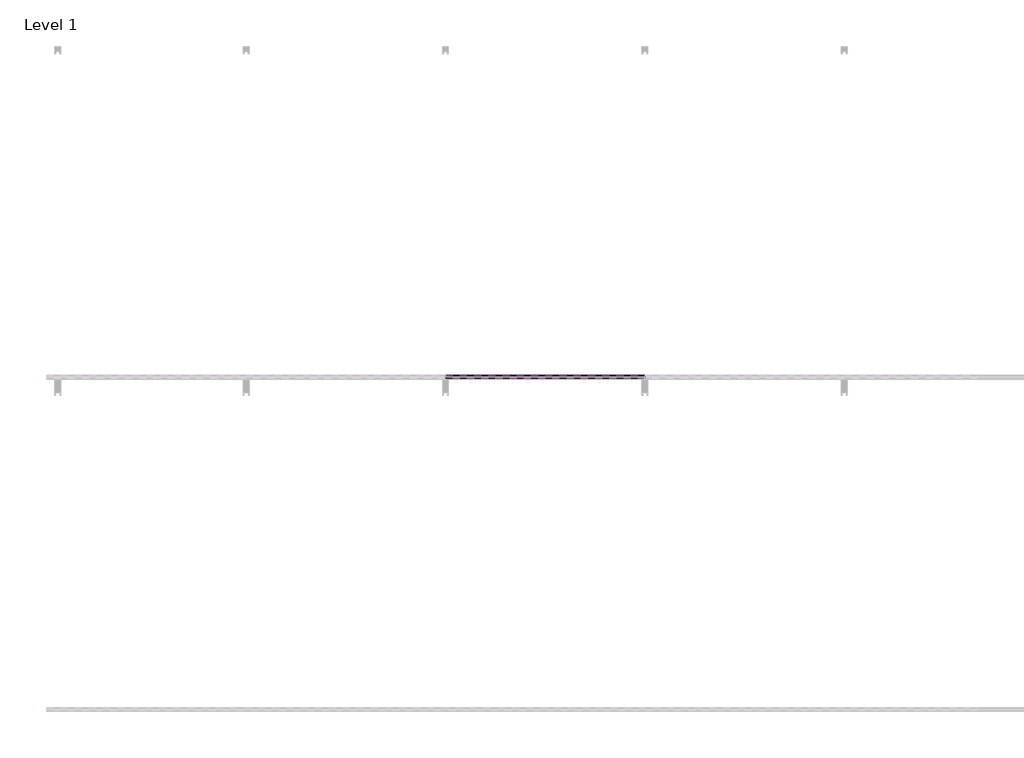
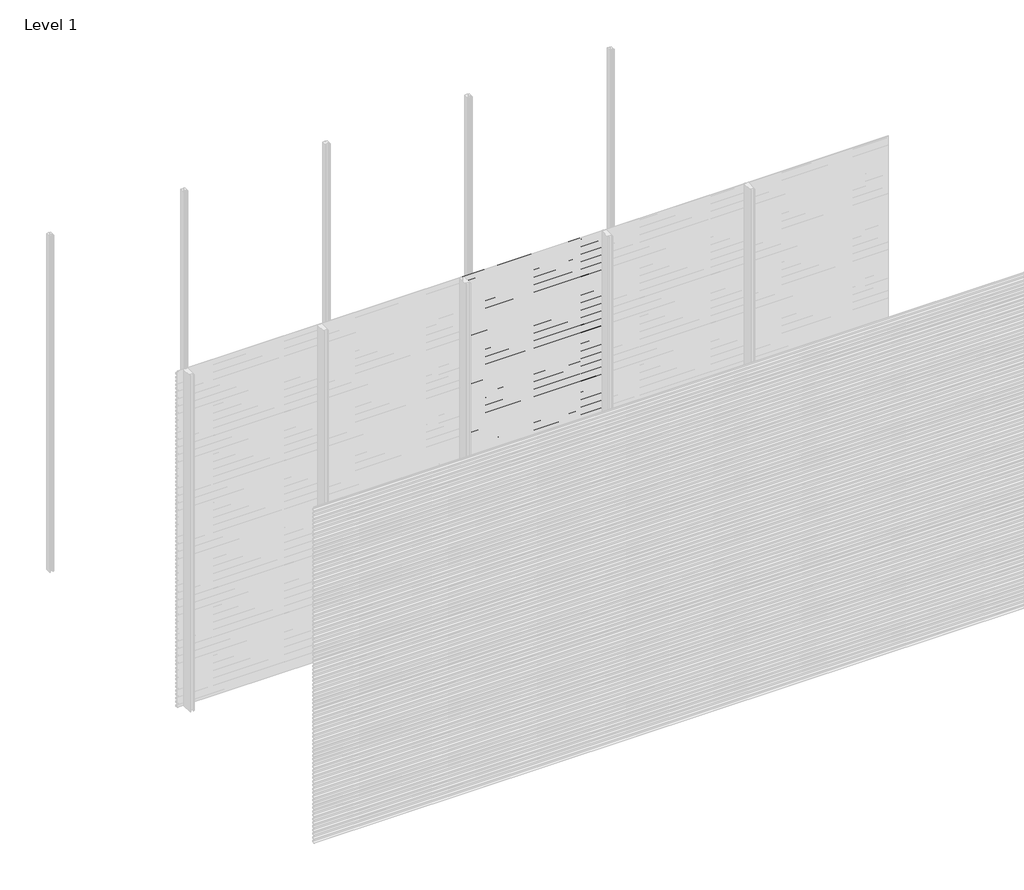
# One storey, part 52 of 77: 72 proxies.
"""IFC4 building model written with IfcOpenShell, lengths in millimetres."""

import ifcopenshell
import ifcopenshell.guid

model = None  # the IFC model being written
_history = None  # IfcOwnerHistory: only IFC2X3 demands one
_inside = {}  # id of a spatial element -> (the spatial element, [elements in it])
_under = {}  # id of a project, library or spatial element -> (it, [spatial elements below it])
_declared = {}  # id of a project -> (the project, [libraries it declares])
_typed = {}  # id of a type object -> (the type object, [elements of that type])
_made_of = {}  # id of a material, layer set ... -> (it, [elements and type objects made of it])


def new_model(schema):
    """Start an empty IFC model of exactly this schema.

    Asked for "IFC4X3", IfcOpenShell would pick the latest addendum, in which some entities
    have other attributes; the version numbers below select the first issue.
    IFC2X3 requires an IfcOwnerHistory on every rooted entity: one is made here for all.
    """
    global model, _history
    if schema == "IFC4X3":
        model = ifcopenshell.file(schema_version=(4, 3, 0, 0))
    else:
        model = ifcopenshell.file(schema=schema)
    _inside.clear()
    _under.clear()
    _declared.clear()
    _typed.clear()
    _made_of.clear()
    _history = None
    if model.schema == "IFC2X3":
        org = make("IfcOrganization", Name="unknown")
        user = make(
            "IfcPersonAndOrganization",
            ThePerson=make("IfcPerson", FamilyName="unknown"),
            TheOrganization=org,
        )
        app = make(
            "IfcApplication",
            ApplicationDeveloper=org,
            Version="unknown",
            ApplicationFullName="unknown",
            ApplicationIdentifier="unknown",
        )
        _history = make(
            "IfcOwnerHistory",
            OwningUser=user,
            OwningApplication=app,
            ChangeAction="ADDED",
            CreationDate=0,
        )
    return model


def make(cls, **values):
    """One entity of the class cls with the attributes given. An attribute that is None is left unset."""
    return model.create_entity(
        cls, **{name: value for name, value in values.items() if value is not None}
    )


def rooted(cls, **values):
    """An entity with a GlobalId (a new one), such as an element, a storey or a relation."""
    return make(cls, GlobalId=ifcopenshell.guid.new(), OwnerHistory=_history, **values)


def si_unit(unit_type, name, prefix=None):
    """IfcSIUnit, for example si_unit("LENGTHUNIT", "METRE", prefix="MILLI")."""
    return make("IfcSIUnit", UnitType=unit_type, Prefix=prefix, Name=name)


def assignment(units):
    """IfcUnitAssignment: the units of a project."""
    return None if units is None else make("IfcUnitAssignment", Units=units)


def point(xyz):
    """IfcCartesianPoint."""
    return None if xyz is None else make("IfcCartesianPoint", Coordinates=xyz)


def direction(xyz):
    """IfcDirection."""
    return None if xyz is None else make("IfcDirection", DirectionRatios=xyz)


def frame(location, z_axis=None, x_axis=None):
    """IfcAxis2Placement3D, a coordinate frame: its origin and axes. An axis left out is left unset."""
    return make(
        "IfcAxis2Placement3D",
        Location=point(location),
        Axis=direction(z_axis),
        RefDirection=direction(x_axis),
    )


def origin():
    """The frame at (0, 0, 0) with its axes left unset."""
    return frame((0.0, 0.0, 0.0))


def place(relative_to, where):
    """IfcLocalPlacement: puts the frame where relative to a parent placement (None: the world)."""
    return make(
        "IfcLocalPlacement", PlacementRelTo=relative_to, RelativePlacement=where
    )


def context(
    kind, dimensions, precision=None, world=None, true_north=None, identifier=None
):
    """IfcGeometricRepresentationContext, for example the 3D "Model" context."""
    return make(
        "IfcGeometricRepresentationContext",
        ContextIdentifier=identifier,
        ContextType=kind,
        CoordinateSpaceDimension=dimensions,
        Precision=precision,
        WorldCoordinateSystem=world,
        TrueNorth=true_north,
    )


def project(units=None, contexts=None):
    """IfcProject with its units and contexts."""
    return rooted(
        "IfcProject",
        Name="project",
        RepresentationContexts=contexts,
        UnitsInContext=assignment(units),
    )


def spatial(cls, under=None, at=None, **own):
    """A site, building, storey or space (cls), placed at a placement, below another one or the project."""
    s = rooted(cls, ObjectPlacement=at, **own)
    if under is not None:
        _under.setdefault(under.id(), (under, []))[1].append(s)
    return s


def polyline(points):
    """IfcPolyline through the points."""
    return make("IfcPolyline", Points=[point(p) for p in points])


def outline(outer, holes=None, kind="AREA"):
    """IfcArbitraryClosedProfileDef: a profile drawn as a closed curve; with holes, ...WithVoids."""
    if holes is None:
        return make("IfcArbitraryClosedProfileDef", ProfileType=kind, OuterCurve=outer)
    return make(
        "IfcArbitraryProfileDefWithVoids",
        ProfileType=kind,
        OuterCurve=outer,
        InnerCurves=holes,
    )


def extrude(swept, where, along, depth):
    """IfcExtrudedAreaSolid: the profile swept, set in the frame where, extruded along a direction by depth."""
    return make(
        "IfcExtrudedAreaSolid",
        SweptArea=swept,
        Position=where,
        ExtrudedDirection=direction(along),
        Depth=depth,
    )


def shape(context_of_items, identifier, shape_type, items):
    """IfcShapeRepresentation: the items that make up one representation, for example the "Body"."""
    return make(
        "IfcShapeRepresentation",
        ContextOfItems=context_of_items,
        RepresentationIdentifier=identifier,
        RepresentationType=shape_type,
        Items=items,
    )


def made_of(thing, what):
    """Note that an element or type object is made of a material, layer set ...; save() writes the relation."""
    if what is not None:
        _made_of.setdefault(what.id(), (what, []))[1].append(thing)
    return thing


def element(
    cls,
    number,
    at=None,
    inside=None,
    cuts=None,
    type_object=None,
    material=None,
    context=None,
    identifier="Body",
    shape_type=None,
    held_by="IfcProductDefinitionShape",
    body=None,
    shapes=None,
    **own,
):
    """One element of the class cls, such as IfcWall. Its Tag is "e" and its number.

    at: its placement. inside: the storey or other place that contains it. cuts: it is an
    opening in that element (IfcRelVoidsElement). A single representation is given by context,
    identifier, shape_type and body (its items); several are given by shapes. held_by: the class
    of the entity that holds the representations. save() writes the other relations.
    """
    e = rooted(cls, Tag="e%d" % number, ObjectPlacement=at, **own)
    if body is not None:
        shapes = [shape(context, identifier, shape_type, body)]
    if shapes is not None:
        e.Representation = make(held_by, Representations=shapes)
    if inside is not None:
        _inside.setdefault(inside.id(), (inside, []))[1].append(e)
    if cuts is not None:
        rooted(
            "IfcRelVoidsElement", RelatingBuildingElement=cuts, RelatedOpeningElement=e
        )
    if type_object is not None:
        _typed.setdefault(type_object.id(), (type_object, []))[1].append(e)
    return made_of(e, material)


def aggregate(whole, parts):
    """IfcRelAggregates: a whole, such as a stair, and the parts it consists of."""
    return rooted("IfcRelAggregates", RelatingObject=whole, RelatedObjects=parts)


def save(model, path):
    """Write the relations noted so far, then the file.

    IfcRelAggregates (storeys below a building ...), IfcRelContainedInSpatialStructure (elements
    in a storey), IfcRelDefinesByType, IfcRelAssociatesMaterial and IfcRelDeclares: one each for
    every whole, place, type object, material and project.
    """
    for whole, parts in _under.values():
        aggregate(whole, parts)
    for where, things in _inside.values():
        rooted(
            "IfcRelContainedInSpatialStructure",
            RelatedElements=things,
            RelatingStructure=where,
        )
    for kind, things in _typed.values():
        rooted("IfcRelDefinesByType", RelatedObjects=things, RelatingType=kind)
    for what, things in _made_of.values():
        rooted("IfcRelAssociatesMaterial", RelatedObjects=things, RelatingMaterial=what)
    for by, libraries in _declared.values():
        rooted("IfcRelDeclares", RelatingContext=by, RelatedDefinitions=libraries)
    model.write(path)


model = new_model("IFC4")

# Units and contexts
model_context = context("Model", 3, world=origin())
ifc_project = project(units=[si_unit("LENGTHUNIT", "METRE", prefix="MILLI")], contexts=[model_context])

# Site, building, storey
site = spatial("IfcSite", under=ifc_project)
building = spatial("IfcBuilding", under=site)
storey = spatial("IfcBuildingStorey", under=building, Name="Level 1", Elevation=0.0)

# Proxies
placement = place(None, origin())
element("IfcBuildingElementProxy", 1, Name="Wall Sweeps", at=placement, inside=storey, context=model_context, shape_type="SweptSolid", body=[
    extrude(outline(polyline([(-17978.6, 408.4359887), (-17998.0, 419.6366691), (-17998.0, 432.9), (-17997.0, 432.9), (-17997.0, 420.2191057), (-17977.6, 409.0185105), (-17977.6, 395.4185105), (-17978.6, 396.9953129), (-17978.6, 402.8032062), (-17995.9773817, 394.7), (-17996.4, 395.6063078), (-17978.6, 403.9065841), (-17978.6, 408.4359887)])), frame((1200.0, 0.0, 0.0), z_axis=(1.0, 0.0, 0.0), x_axis=(0.0, 1.0, 0.0)), (0.0, 0.0, 1.0), 1200.0),
])
element("IfcBuildingElementProxy", 2, Name="Wall Sweeps", at=placement, inside=storey, context=model_context, shape_type="SweptSolid", body=[
    extrude(outline(polyline([(-17978.6, 375.1359887), (-17998.0, 386.3366691), (-17998.0, 399.6), (-17997.0, 399.6), (-17997.0, 386.9191057), (-17977.6, 375.7185105), (-17977.6, 362.1185105), (-17978.6, 363.6953129), (-17978.6, 369.5032062), (-17995.9773817, 361.4), (-17996.4, 362.3063078), (-17978.6, 370.6065841), (-17978.6, 375.1359887)])), frame((1200.0, 0.0, 0.0), z_axis=(1.0, 0.0, 0.0), x_axis=(0.0, 1.0, 0.0)), (0.0, 0.0, 1.0), 1200.0),
])
element("IfcBuildingElementProxy", 3, Name="Wall Sweeps", at=placement, inside=storey, context=model_context, shape_type="SweptSolid", body=[
    extrude(outline(polyline([(-17978.6, 341.8359887), (-17998.0, 353.0366691), (-17998.0, 366.3), (-17997.0, 366.3), (-17997.0, 353.6191057), (-17977.6, 342.4185105), (-17977.6, 328.8185105), (-17978.6, 330.3953129), (-17978.6, 336.2032062), (-17995.9773817, 328.1), (-17996.4, 329.0063078), (-17978.6, 337.3065841), (-17978.6, 341.8359887)])), frame((1200.0, 0.0, 0.0), z_axis=(1.0, 0.0, 0.0), x_axis=(0.0, 1.0, 0.0)), (0.0, 0.0, 1.0), 1200.0),
])
element("IfcBuildingElementProxy", 4, Name="Wall Sweeps", at=placement, inside=storey, context=model_context, shape_type="SweptSolid", body=[
    extrude(outline(polyline([(-17978.6, 308.5359887), (-17998.0, 319.7366691), (-17998.0, 333.0), (-17997.0, 333.0), (-17997.0, 320.3191057), (-17977.6, 309.1185105), (-17977.6, 295.5185105), (-17978.6, 297.0953129), (-17978.6, 302.9032062), (-17995.9773817, 294.8), (-17996.4, 295.7063078), (-17978.6, 304.0065841), (-17978.6, 308.5359887)])), frame((1200.0, 0.0, 0.0), z_axis=(1.0, 0.0, 0.0), x_axis=(0.0, 1.0, 0.0)), (0.0, 0.0, 1.0), 1200.0),
])
element("IfcBuildingElementProxy", 5, Name="Wall Sweeps", at=placement, inside=storey, context=model_context, shape_type="SweptSolid", body=[
    extrude(outline(polyline([(-17978.6, 275.2359887), (-17998.0, 286.4366691), (-17998.0, 299.7), (-17997.0, 299.7), (-17997.0, 287.0191057), (-17977.6, 275.8185105), (-17977.6, 262.2185105), (-17978.6, 263.7953129), (-17978.6, 269.6032062), (-17995.9773817, 261.5), (-17996.4, 262.4063078), (-17978.6, 270.7065841), (-17978.6, 275.2359887)])), frame((1200.0, 0.0, 0.0), z_axis=(1.0, 0.0, 0.0), x_axis=(0.0, 1.0, 0.0)), (0.0, 0.0, 1.0), 1200.0),
])
element("IfcBuildingElementProxy", 6, Name="Wall Sweeps", at=placement, inside=storey, context=model_context, shape_type="SweptSolid", body=[
    extrude(outline(polyline([(-17978.6, 241.9359887), (-17998.0, 253.1366691), (-17998.0, 266.4), (-17997.0, 266.4), (-17997.0, 253.7191057), (-17977.6, 242.5185105), (-17977.6, 228.9185105), (-17978.6, 230.4953129), (-17978.6, 236.3032062), (-17995.9773817, 228.2), (-17996.4, 229.1063078), (-17978.6, 237.4065841), (-17978.6, 241.9359887)])), frame((1200.0, 0.0, 0.0), z_axis=(1.0, 0.0, 0.0), x_axis=(0.0, 1.0, 0.0)), (0.0, 0.0, 1.0), 1200.0),
])
element("IfcBuildingElementProxy", 7, Name="Wall Sweeps", at=placement, inside=storey, context=model_context, shape_type="SweptSolid", body=[
    extrude(outline(polyline([(-17978.6, 208.6359887), (-17998.0, 219.8366691), (-17998.0, 233.1), (-17997.0, 233.1), (-17997.0, 220.4191057), (-17977.6, 209.2185105), (-17977.6, 195.6185105), (-17978.6, 197.1953129), (-17978.6, 203.0032062), (-17995.9773817, 194.9), (-17996.4, 195.8063078), (-17978.6, 204.1065841), (-17978.6, 208.6359887)])), frame((1200.0, 0.0, 0.0), z_axis=(1.0, 0.0, 0.0), x_axis=(0.0, 1.0, 0.0)), (0.0, 0.0, 1.0), 1200.0),
])
element("IfcBuildingElementProxy", 8, Name="Wall Sweeps", at=placement, inside=storey, context=model_context, shape_type="SweptSolid", body=[
    extrude(outline(polyline([(-17978.6, 175.3359887), (-17998.0, 186.5366691), (-17998.0, 199.8), (-17997.0, 199.8), (-17997.0, 187.1191057), (-17977.6, 175.9185105), (-17977.6, 162.3185105), (-17978.6, 163.8953129), (-17978.6, 169.7032062), (-17995.9773817, 161.6), (-17996.4, 162.5063078), (-17978.6, 170.8065841), (-17978.6, 175.3359887)])), frame((1200.0, 0.0, 0.0), z_axis=(1.0, 0.0, 0.0), x_axis=(0.0, 1.0, 0.0)), (0.0, 0.0, 1.0), 1200.0),
])
element("IfcBuildingElementProxy", 9, Name="Wall Sweeps", at=placement, inside=storey, context=model_context, shape_type="SweptSolid", body=[
    extrude(outline(polyline([(-17978.6, 142.0359887), (-17998.0, 153.2366691), (-17998.0, 166.5), (-17997.0, 166.5), (-17997.0, 153.8191057), (-17977.6, 142.6185105), (-17977.6, 129.0185105), (-17978.6, 130.5953129), (-17978.6, 136.4032062), (-17995.9773817, 128.3), (-17996.4, 129.2063078), (-17978.6, 137.5065841), (-17978.6, 142.0359887)])), frame((1200.0, 0.0, 0.0), z_axis=(1.0, 0.0, 0.0), x_axis=(0.0, 1.0, 0.0)), (0.0, 0.0, 1.0), 1200.0),
])
element("IfcBuildingElementProxy", 10, Name="Wall Sweeps", at=placement, inside=storey, context=model_context, shape_type="SweptSolid", body=[
    extrude(outline(polyline([(-17978.6, 108.7359887), (-17998.0, 119.9366691), (-17998.0, 133.2), (-17997.0, 133.2), (-17997.0, 120.5191057), (-17977.6, 109.3185105), (-17977.6, 95.7185105), (-17978.6, 97.2953129), (-17978.6, 103.1032062), (-17995.9773817, 95.0), (-17996.4, 95.9063078), (-17978.6, 104.2065841), (-17978.6, 108.7359887)])), frame((1200.0, 0.0, 0.0), z_axis=(1.0, 0.0, 0.0), x_axis=(0.0, 1.0, 0.0)), (0.0, 0.0, 1.0), 1200.0),
])
element("IfcBuildingElementProxy", 11, Name="Wall Sweeps", at=placement, inside=storey, context=model_context, shape_type="SweptSolid", body=[
    extrude(outline(polyline([(-17978.6, 75.4359887), (-17998.0, 86.6366691), (-17998.0, 99.9), (-17997.0, 99.9), (-17997.0, 87.2191057), (-17977.6, 76.0185105), (-17977.6, 62.4185105), (-17978.6, 63.9953129), (-17978.6, 69.8032062), (-17995.9773817, 61.7), (-17996.4, 62.6063078), (-17978.6, 70.9065841), (-17978.6, 75.4359887)])), frame((1200.0, 0.0, 0.0), z_axis=(1.0, 0.0, 0.0), x_axis=(0.0, 1.0, 0.0)), (0.0, 0.0, 1.0), 1200.0),
])
element("IfcBuildingElementProxy", 12, Name="Wall Sweeps", at=placement, inside=storey, context=model_context, shape_type="SweptSolid", body=[
    extrude(outline(polyline([(-17978.6, 42.1359887), (-17998.0, 53.3366691), (-17998.0, 66.6), (-17997.0, 66.6), (-17997.0, 53.9191057), (-17977.6, 42.7185105), (-17977.6, 29.1185105), (-17978.6, 30.6953129), (-17978.6, 36.5032062), (-17995.9773817, 28.4), (-17996.4, 29.3063078), (-17978.6, 37.6065841), (-17978.6, 42.1359887)])), frame((1200.0, 0.0, 0.0), z_axis=(1.0, 0.0, 0.0), x_axis=(0.0, 1.0, 0.0)), (0.0, 0.0, 1.0), 1200.0),
])
element("IfcBuildingElementProxy", 13, Name="Wall Sweeps", at=placement, inside=storey, context=model_context, shape_type="SweptSolid", body=[
    extrude(outline(polyline([(-17978.6, 8.8359887), (-17998.0, 20.0366691), (-17998.0, 33.3), (-17997.0, 33.3), (-17997.0, 20.6191057), (-17977.6, 9.4185105), (-17977.6, -4.1814895), (-17978.6, -2.6046871), (-17978.6, 3.2032062), (-17995.9773817, -4.9), (-17996.4, -3.9936922), (-17978.6, 4.3065841), (-17978.6, 8.8359887)])), frame((1200.0, 0.0, 0.0), z_axis=(1.0, 0.0, 0.0), x_axis=(0.0, 1.0, 0.0)), (0.0, 0.0, 1.0), 1200.0),
])
element("IfcBuildingElementProxy", 14, Name="Wall Sweeps", at=placement, inside=storey, context=model_context, shape_type="SweptSolid", body=[
    extrude(outline(polyline([(-17978.6, 2972.5359887), (-17998.0, 2983.7366691), (-17998.0, 2997.0), (-17997.0, 2997.0), (-17997.0, 2984.3191057), (-17977.6, 2973.1185105), (-17977.6, 2959.5185105), (-17978.6, 2961.0953129), (-17978.6, 2966.9032062), (-17995.9773817, 2958.8), (-17996.4, 2959.7063078), (-17978.6, 2968.0065841), (-17978.6, 2972.5359887)])), frame((2400.0, 0.0, 0.0), z_axis=(1.0, 0.0, 0.0), x_axis=(0.0, 1.0, 0.0)), (0.0, 0.0, 1.0), 1200.0),
])
element("IfcBuildingElementProxy", 15, Name="Wall Sweeps", at=placement, inside=storey, context=model_context, shape_type="SweptSolid", body=[
    extrude(outline(polyline([(-17978.6, 2939.2359887), (-17998.0, 2950.4366691), (-17998.0, 2963.7), (-17997.0, 2963.7), (-17997.0, 2951.0191057), (-17977.6, 2939.8185105), (-17977.6, 2926.2185105), (-17978.6, 2927.7953129), (-17978.6, 2933.6032062), (-17995.9773817, 2925.5), (-17996.4, 2926.4063078), (-17978.6, 2934.7065841), (-17978.6, 2939.2359887)])), frame((2400.0, 0.0, 0.0), z_axis=(1.0, 0.0, 0.0), x_axis=(0.0, 1.0, 0.0)), (0.0, 0.0, 1.0), 1200.0),
])
element("IfcBuildingElementProxy", 16, Name="Wall Sweeps", at=placement, inside=storey, context=model_context, shape_type="SweptSolid", body=[
    extrude(outline(polyline([(-17978.6, 2905.9359887), (-17998.0, 2917.1366691), (-17998.0, 2930.4), (-17997.0, 2930.4), (-17997.0, 2917.7191057), (-17977.6, 2906.5185105), (-17977.6, 2892.9185105), (-17978.6, 2894.4953129), (-17978.6, 2900.3032062), (-17995.9773817, 2892.2), (-17996.4, 2893.1063078), (-17978.6, 2901.4065841), (-17978.6, 2905.9359887)])), frame((2400.0, 0.0, 0.0), z_axis=(1.0, 0.0, 0.0), x_axis=(0.0, 1.0, 0.0)), (0.0, 0.0, 1.0), 1200.0),
])
element("IfcBuildingElementProxy", 17, Name="Wall Sweeps", at=placement, inside=storey, context=model_context, shape_type="SweptSolid", body=[
    extrude(outline(polyline([(-17978.6, 2872.6359887), (-17998.0, 2883.8366691), (-17998.0, 2897.1), (-17997.0, 2897.1), (-17997.0, 2884.4191057), (-17977.6, 2873.2185105), (-17977.6, 2859.6185105), (-17978.6, 2861.1953129), (-17978.6, 2867.0032062), (-17995.9773817, 2858.9), (-17996.4, 2859.8063078), (-17978.6, 2868.1065841), (-17978.6, 2872.6359887)])), frame((2400.0, 0.0, 0.0), z_axis=(1.0, 0.0, 0.0), x_axis=(0.0, 1.0, 0.0)), (0.0, 0.0, 1.0), 1200.0),
])
element("IfcBuildingElementProxy", 18, Name="Wall Sweeps", at=placement, inside=storey, context=model_context, shape_type="SweptSolid", body=[
    extrude(outline(polyline([(-17978.6, 2839.3359887), (-17998.0, 2850.5366691), (-17998.0, 2863.8), (-17997.0, 2863.8), (-17997.0, 2851.1191057), (-17977.6, 2839.9185105), (-17977.6, 2826.3185105), (-17978.6, 2827.8953129), (-17978.6, 2833.7032062), (-17995.9773817, 2825.6), (-17996.4, 2826.5063078), (-17978.6, 2834.8065841), (-17978.6, 2839.3359887)])), frame((2400.0, 0.0, 0.0), z_axis=(1.0, 0.0, 0.0), x_axis=(0.0, 1.0, 0.0)), (0.0, 0.0, 1.0), 1200.0),
])
element("IfcBuildingElementProxy", 19, Name="Wall Sweeps", at=placement, inside=storey, context=model_context, shape_type="SweptSolid", body=[
    extrude(outline(polyline([(-17978.6, 2806.0359887), (-17998.0, 2817.2366691), (-17998.0, 2830.5), (-17997.0, 2830.5), (-17997.0, 2817.8191057), (-17977.6, 2806.6185105), (-17977.6, 2793.0185105), (-17978.6, 2794.5953129), (-17978.6, 2800.4032062), (-17995.9773817, 2792.3), (-17996.4, 2793.2063078), (-17978.6, 2801.5065841), (-17978.6, 2806.0359887)])), frame((2400.0, 0.0, 0.0), z_axis=(1.0, 0.0, 0.0), x_axis=(0.0, 1.0, 0.0)), (0.0, 0.0, 1.0), 1200.0),
])
element("IfcBuildingElementProxy", 20, Name="Wall Sweeps", at=placement, inside=storey, context=model_context, shape_type="SweptSolid", body=[
    extrude(outline(polyline([(-17978.6, 2772.7359887), (-17998.0, 2783.9366691), (-17998.0, 2797.2), (-17997.0, 2797.2), (-17997.0, 2784.5191057), (-17977.6, 2773.3185105), (-17977.6, 2759.7185105), (-17978.6, 2761.2953129), (-17978.6, 2767.1032062), (-17995.9773817, 2759.0), (-17996.4, 2759.9063078), (-17978.6, 2768.2065841), (-17978.6, 2772.7359887)])), frame((2400.0, 0.0, 0.0), z_axis=(1.0, 0.0, 0.0), x_axis=(0.0, 1.0, 0.0)), (0.0, 0.0, 1.0), 1200.0),
])
element("IfcBuildingElementProxy", 21, Name="Wall Sweeps", at=placement, inside=storey, context=model_context, shape_type="SweptSolid", body=[
    extrude(outline(polyline([(-17978.6, 2739.4359887), (-17998.0, 2750.6366691), (-17998.0, 2763.9), (-17997.0, 2763.9), (-17997.0, 2751.2191057), (-17977.6, 2740.0185105), (-17977.6, 2726.4185105), (-17978.6, 2727.9953129), (-17978.6, 2733.8032062), (-17995.9773817, 2725.7), (-17996.4, 2726.6063078), (-17978.6, 2734.9065841), (-17978.6, 2739.4359887)])), frame((2400.0, 0.0, 0.0), z_axis=(1.0, 0.0, 0.0), x_axis=(0.0, 1.0, 0.0)), (0.0, 0.0, 1.0), 1200.0),
])
element("IfcBuildingElementProxy", 22, Name="Wall Sweeps", at=placement, inside=storey, context=model_context, shape_type="SweptSolid", body=[
    extrude(outline(polyline([(-17978.6, 2706.1359887), (-17998.0, 2717.3366691), (-17998.0, 2730.6), (-17997.0, 2730.6), (-17997.0, 2717.9191057), (-17977.6, 2706.7185105), (-17977.6, 2693.1185105), (-17978.6, 2694.6953129), (-17978.6, 2700.5032062), (-17995.9773817, 2692.4), (-17996.4, 2693.3063078), (-17978.6, 2701.6065841), (-17978.6, 2706.1359887)])), frame((2400.0, 0.0, 0.0), z_axis=(1.0, 0.0, 0.0), x_axis=(0.0, 1.0, 0.0)), (0.0, 0.0, 1.0), 1200.0),
])
element("IfcBuildingElementProxy", 23, Name="Wall Sweeps", at=placement, inside=storey, context=model_context, shape_type="SweptSolid", body=[
    extrude(outline(polyline([(-17978.6, 2672.8359887), (-17998.0, 2684.0366691), (-17998.0, 2697.3), (-17997.0, 2697.3), (-17997.0, 2684.6191057), (-17977.6, 2673.4185105), (-17977.6, 2659.8185105), (-17978.6, 2661.3953129), (-17978.6, 2667.2032062), (-17995.9773817, 2659.1), (-17996.4, 2660.0063078), (-17978.6, 2668.3065841), (-17978.6, 2672.8359887)])), frame((2400.0, 0.0, 0.0), z_axis=(1.0, 0.0, 0.0), x_axis=(0.0, 1.0, 0.0)), (0.0, 0.0, 1.0), 1200.0),
])
element("IfcBuildingElementProxy", 24, Name="Wall Sweeps", at=placement, inside=storey, context=model_context, shape_type="SweptSolid", body=[
    extrude(outline(polyline([(-17978.6, 2639.5359887), (-17998.0, 2650.7366691), (-17998.0, 2664.0), (-17997.0, 2664.0), (-17997.0, 2651.3191057), (-17977.6, 2640.1185105), (-17977.6, 2626.5185105), (-17978.6, 2628.0953129), (-17978.6, 2633.9032062), (-17995.9773817, 2625.8), (-17996.4, 2626.7063078), (-17978.6, 2635.0065841), (-17978.6, 2639.5359887)])), frame((2400.0, 0.0, 0.0), z_axis=(1.0, 0.0, 0.0), x_axis=(0.0, 1.0, 0.0)), (0.0, 0.0, 1.0), 1200.0),
])
element("IfcBuildingElementProxy", 25, Name="Wall Sweeps", at=placement, inside=storey, context=model_context, shape_type="SweptSolid", body=[
    extrude(outline(polyline([(-17978.6, 2606.2359887), (-17998.0, 2617.4366691), (-17998.0, 2630.7), (-17997.0, 2630.7), (-17997.0, 2618.0191057), (-17977.6, 2606.8185105), (-17977.6, 2593.2185105), (-17978.6, 2594.7953129), (-17978.6, 2600.6032062), (-17995.9773817, 2592.5), (-17996.4, 2593.4063078), (-17978.6, 2601.7065841), (-17978.6, 2606.2359887)])), frame((2400.0, 0.0, 0.0), z_axis=(1.0, 0.0, 0.0), x_axis=(0.0, 1.0, 0.0)), (0.0, 0.0, 1.0), 1200.0),
])
element("IfcBuildingElementProxy", 26, Name="Wall Sweeps", at=placement, inside=storey, context=model_context, shape_type="SweptSolid", body=[
    extrude(outline(polyline([(-17978.6, 2572.9359887), (-17998.0, 2584.1366691), (-17998.0, 2597.4), (-17997.0, 2597.4), (-17997.0, 2584.7191057), (-17977.6, 2573.5185105), (-17977.6, 2559.9185105), (-17978.6, 2561.4953129), (-17978.6, 2567.3032062), (-17995.9773817, 2559.2), (-17996.4, 2560.1063078), (-17978.6, 2568.4065841), (-17978.6, 2572.9359887)])), frame((2400.0, 0.0, 0.0), z_axis=(1.0, 0.0, 0.0), x_axis=(0.0, 1.0, 0.0)), (0.0, 0.0, 1.0), 1200.0),
])
element("IfcBuildingElementProxy", 27, Name="Wall Sweeps", at=placement, inside=storey, context=model_context, shape_type="SweptSolid", body=[
    extrude(outline(polyline([(-17978.6, 2539.6359887), (-17998.0, 2550.8366691), (-17998.0, 2564.1), (-17997.0, 2564.1), (-17997.0, 2551.4191057), (-17977.6, 2540.2185105), (-17977.6, 2526.6185105), (-17978.6, 2528.1953129), (-17978.6, 2534.0032062), (-17995.9773817, 2525.9), (-17996.4, 2526.8063078), (-17978.6, 2535.1065841), (-17978.6, 2539.6359887)])), frame((2400.0, 0.0, 0.0), z_axis=(1.0, 0.0, 0.0), x_axis=(0.0, 1.0, 0.0)), (0.0, 0.0, 1.0), 1200.0),
])
element("IfcBuildingElementProxy", 28, Name="Wall Sweeps", at=placement, inside=storey, context=model_context, shape_type="SweptSolid", body=[
    extrude(outline(polyline([(-17978.6, 2506.3359887), (-17998.0, 2517.5366691), (-17998.0, 2530.8), (-17997.0, 2530.8), (-17997.0, 2518.1191057), (-17977.6, 2506.9185105), (-17977.6, 2493.3185105), (-17978.6, 2494.8953129), (-17978.6, 2500.7032062), (-17995.9773817, 2492.6), (-17996.4, 2493.5063078), (-17978.6, 2501.8065841), (-17978.6, 2506.3359887)])), frame((2400.0, 0.0, 0.0), z_axis=(1.0, 0.0, 0.0), x_axis=(0.0, 1.0, 0.0)), (0.0, 0.0, 1.0), 1200.0),
])
element("IfcBuildingElementProxy", 29, Name="Wall Sweeps", at=placement, inside=storey, context=model_context, shape_type="SweptSolid", body=[
    extrude(outline(polyline([(-17978.6, 2473.0359887), (-17998.0, 2484.2366691), (-17998.0, 2497.5), (-17997.0, 2497.5), (-17997.0, 2484.8191057), (-17977.6, 2473.6185105), (-17977.6, 2460.0185105), (-17978.6, 2461.5953129), (-17978.6, 2467.4032062), (-17995.9773817, 2459.3), (-17996.4, 2460.2063078), (-17978.6, 2468.5065841), (-17978.6, 2473.0359887)])), frame((2400.0, 0.0, 0.0), z_axis=(1.0, 0.0, 0.0), x_axis=(0.0, 1.0, 0.0)), (0.0, 0.0, 1.0), 1200.0),
])
element("IfcBuildingElementProxy", 30, Name="Wall Sweeps", at=placement, inside=storey, context=model_context, shape_type="SweptSolid", body=[
    extrude(outline(polyline([(-17978.6, 2439.7359887), (-17998.0, 2450.9366691), (-17998.0, 2464.2), (-17997.0, 2464.2), (-17997.0, 2451.5191057), (-17977.6, 2440.3185105), (-17977.6, 2426.7185105), (-17978.6, 2428.2953129), (-17978.6, 2434.1032062), (-17995.9773817, 2426.0), (-17996.4, 2426.9063078), (-17978.6, 2435.2065841), (-17978.6, 2439.7359887)])), frame((2400.0, 0.0, 0.0), z_axis=(1.0, 0.0, 0.0), x_axis=(0.0, 1.0, 0.0)), (0.0, 0.0, 1.0), 1200.0),
])
element("IfcBuildingElementProxy", 31, Name="Wall Sweeps", at=placement, inside=storey, context=model_context, shape_type="SweptSolid", body=[
    extrude(outline(polyline([(-17978.6, 2406.4359887), (-17998.0, 2417.6366691), (-17998.0, 2430.9), (-17997.0, 2430.9), (-17997.0, 2418.2191057), (-17977.6, 2407.0185105), (-17977.6, 2393.4185105), (-17978.6, 2394.9953129), (-17978.6, 2400.8032062), (-17995.9773817, 2392.7), (-17996.4, 2393.6063078), (-17978.6, 2401.9065841), (-17978.6, 2406.4359887)])), frame((2400.0, 0.0, 0.0), z_axis=(1.0, 0.0, 0.0), x_axis=(0.0, 1.0, 0.0)), (0.0, 0.0, 1.0), 1200.0),
])
element("IfcBuildingElementProxy", 32, Name="Wall Sweeps", at=placement, inside=storey, context=model_context, shape_type="SweptSolid", body=[
    extrude(outline(polyline([(-17978.6, 2373.1359887), (-17998.0, 2384.3366691), (-17998.0, 2397.6), (-17997.0, 2397.6), (-17997.0, 2384.9191057), (-17977.6, 2373.7185105), (-17977.6, 2360.1185105), (-17978.6, 2361.6953129), (-17978.6, 2367.5032062), (-17995.9773817, 2359.4), (-17996.4, 2360.3063078), (-17978.6, 2368.6065841), (-17978.6, 2373.1359887)])), frame((2400.0, 0.0, 0.0), z_axis=(1.0, 0.0, 0.0), x_axis=(0.0, 1.0, 0.0)), (0.0, 0.0, 1.0), 1200.0),
])
element("IfcBuildingElementProxy", 33, Name="Wall Sweeps", at=placement, inside=storey, context=model_context, shape_type="SweptSolid", body=[
    extrude(outline(polyline([(-17978.6, 2339.8359887), (-17998.0, 2351.0366691), (-17998.0, 2364.3), (-17997.0, 2364.3), (-17997.0, 2351.6191057), (-17977.6, 2340.4185105), (-17977.6, 2326.8185105), (-17978.6, 2328.3953129), (-17978.6, 2334.2032062), (-17995.9773817, 2326.1), (-17996.4, 2327.0063078), (-17978.6, 2335.3065841), (-17978.6, 2339.8359887)])), frame((2400.0, 0.0, 0.0), z_axis=(1.0, 0.0, 0.0), x_axis=(0.0, 1.0, 0.0)), (0.0, 0.0, 1.0), 1200.0),
])
element("IfcBuildingElementProxy", 34, Name="Wall Sweeps", at=placement, inside=storey, context=model_context, shape_type="SweptSolid", body=[
    extrude(outline(polyline([(-17978.6, 2306.5359887), (-17998.0, 2317.7366691), (-17998.0, 2331.0), (-17997.0, 2331.0), (-17997.0, 2318.3191057), (-17977.6, 2307.1185105), (-17977.6, 2293.5185105), (-17978.6, 2295.0953129), (-17978.6, 2300.9032062), (-17995.9773817, 2292.8), (-17996.4, 2293.7063078), (-17978.6, 2302.0065841), (-17978.6, 2306.5359887)])), frame((2400.0, 0.0, 0.0), z_axis=(1.0, 0.0, 0.0), x_axis=(0.0, 1.0, 0.0)), (0.0, 0.0, 1.0), 1200.0),
])
element("IfcBuildingElementProxy", 35, Name="Wall Sweeps", at=placement, inside=storey, context=model_context, shape_type="SweptSolid", body=[
    extrude(outline(polyline([(-17978.6, 2273.2359887), (-17998.0, 2284.4366691), (-17998.0, 2297.7), (-17997.0, 2297.7), (-17997.0, 2285.0191057), (-17977.6, 2273.8185105), (-17977.6, 2260.2185105), (-17978.6, 2261.7953129), (-17978.6, 2267.6032062), (-17995.9773817, 2259.5), (-17996.4, 2260.4063078), (-17978.6, 2268.7065841), (-17978.6, 2273.2359887)])), frame((2400.0, 0.0, 0.0), z_axis=(1.0, 0.0, 0.0), x_axis=(0.0, 1.0, 0.0)), (0.0, 0.0, 1.0), 1200.0),
])
element("IfcBuildingElementProxy", 36, Name="Wall Sweeps", at=placement, inside=storey, context=model_context, shape_type="SweptSolid", body=[
    extrude(outline(polyline([(-17978.6, 2239.9359887), (-17998.0, 2251.1366691), (-17998.0, 2264.4), (-17997.0, 2264.4), (-17997.0, 2251.7191057), (-17977.6, 2240.5185105), (-17977.6, 2226.9185105), (-17978.6, 2228.4953129), (-17978.6, 2234.3032062), (-17995.9773817, 2226.2), (-17996.4, 2227.1063078), (-17978.6, 2235.4065841), (-17978.6, 2239.9359887)])), frame((2400.0, 0.0, 0.0), z_axis=(1.0, 0.0, 0.0), x_axis=(0.0, 1.0, 0.0)), (0.0, 0.0, 1.0), 1200.0),
])
element("IfcBuildingElementProxy", 37, Name="Wall Sweeps", at=placement, inside=storey, context=model_context, shape_type="SweptSolid", body=[
    extrude(outline(polyline([(-17978.6, 2206.6359887), (-17998.0, 2217.8366691), (-17998.0, 2231.1), (-17997.0, 2231.1), (-17997.0, 2218.4191057), (-17977.6, 2207.2185105), (-17977.6, 2193.6185105), (-17978.6, 2195.1953129), (-17978.6, 2201.0032062), (-17995.9773817, 2192.9), (-17996.4, 2193.8063078), (-17978.6, 2202.1065841), (-17978.6, 2206.6359887)])), frame((2400.0, 0.0, 0.0), z_axis=(1.0, 0.0, 0.0), x_axis=(0.0, 1.0, 0.0)), (0.0, 0.0, 1.0), 1200.0),
])
element("IfcBuildingElementProxy", 38, Name="Wall Sweeps", at=placement, inside=storey, context=model_context, shape_type="SweptSolid", body=[
    extrude(outline(polyline([(-17978.6, 2173.3359887), (-17998.0, 2184.5366691), (-17998.0, 2197.8), (-17997.0, 2197.8), (-17997.0, 2185.1191057), (-17977.6, 2173.9185105), (-17977.6, 2160.3185105), (-17978.6, 2161.8953129), (-17978.6, 2167.7032062), (-17995.9773817, 2159.6), (-17996.4, 2160.5063078), (-17978.6, 2168.8065841), (-17978.6, 2173.3359887)])), frame((2400.0, 0.0, 0.0), z_axis=(1.0, 0.0, 0.0), x_axis=(0.0, 1.0, 0.0)), (0.0, 0.0, 1.0), 1200.0),
])
element("IfcBuildingElementProxy", 39, Name="Wall Sweeps", at=placement, inside=storey, context=model_context, shape_type="SweptSolid", body=[
    extrude(outline(polyline([(-17978.6, 2140.0359887), (-17998.0, 2151.2366691), (-17998.0, 2164.5), (-17997.0, 2164.5), (-17997.0, 2151.8191057), (-17977.6, 2140.6185105), (-17977.6, 2127.0185105), (-17978.6, 2128.5953129), (-17978.6, 2134.4032062), (-17995.9773817, 2126.3), (-17996.4, 2127.2063078), (-17978.6, 2135.5065841), (-17978.6, 2140.0359887)])), frame((2400.0, 0.0, 0.0), z_axis=(1.0, 0.0, 0.0), x_axis=(0.0, 1.0, 0.0)), (0.0, 0.0, 1.0), 1200.0),
])
element("IfcBuildingElementProxy", 40, Name="Wall Sweeps", at=placement, inside=storey, context=model_context, shape_type="SweptSolid", body=[
    extrude(outline(polyline([(-17978.6, 2106.7359887), (-17998.0, 2117.9366691), (-17998.0, 2131.2), (-17997.0, 2131.2), (-17997.0, 2118.5191057), (-17977.6, 2107.3185105), (-17977.6, 2093.7185105), (-17978.6, 2095.2953129), (-17978.6, 2101.1032062), (-17995.9773817, 2093.0), (-17996.4, 2093.9063078), (-17978.6, 2102.2065841), (-17978.6, 2106.7359887)])), frame((2400.0, 0.0, 0.0), z_axis=(1.0, 0.0, 0.0), x_axis=(0.0, 1.0, 0.0)), (0.0, 0.0, 1.0), 1200.0),
])
element("IfcBuildingElementProxy", 41, Name="Wall Sweeps", at=placement, inside=storey, context=model_context, shape_type="SweptSolid", body=[
    extrude(outline(polyline([(-17978.6, 2073.4359887), (-17998.0, 2084.6366691), (-17998.0, 2097.9), (-17997.0, 2097.9), (-17997.0, 2085.2191057), (-17977.6, 2074.0185105), (-17977.6, 2060.4185105), (-17978.6, 2061.9953129), (-17978.6, 2067.8032062), (-17995.9773817, 2059.7), (-17996.4, 2060.6063078), (-17978.6, 2068.9065841), (-17978.6, 2073.4359887)])), frame((2400.0, 0.0, 0.0), z_axis=(1.0, 0.0, 0.0), x_axis=(0.0, 1.0, 0.0)), (0.0, 0.0, 1.0), 1200.0),
])
element("IfcBuildingElementProxy", 42, Name="Wall Sweeps", at=placement, inside=storey, context=model_context, shape_type="SweptSolid", body=[
    extrude(outline(polyline([(-17978.6, 2040.1359887), (-17998.0, 2051.3366691), (-17998.0, 2064.6), (-17997.0, 2064.6), (-17997.0, 2051.9191057), (-17977.6, 2040.7185105), (-17977.6, 2027.1185105), (-17978.6, 2028.6953129), (-17978.6, 2034.5032062), (-17995.9773817, 2026.4), (-17996.4, 2027.3063078), (-17978.6, 2035.6065841), (-17978.6, 2040.1359887)])), frame((2400.0, 0.0, 0.0), z_axis=(1.0, 0.0, 0.0), x_axis=(0.0, 1.0, 0.0)), (0.0, 0.0, 1.0), 1200.0),
])
element("IfcBuildingElementProxy", 43, Name="Wall Sweeps", at=placement, inside=storey, context=model_context, shape_type="SweptSolid", body=[
    extrude(outline(polyline([(-17978.6, 2006.8359887), (-17998.0, 2018.0366691), (-17998.0, 2031.3), (-17997.0, 2031.3), (-17997.0, 2018.6191057), (-17977.6, 2007.4185105), (-17977.6, 1993.8185105), (-17978.6, 1995.3953129), (-17978.6, 2001.2032062), (-17995.9773817, 1993.1), (-17996.4, 1994.0063078), (-17978.6, 2002.3065841), (-17978.6, 2006.8359887)])), frame((2400.0, 0.0, 0.0), z_axis=(1.0, 0.0, 0.0), x_axis=(0.0, 1.0, 0.0)), (0.0, 0.0, 1.0), 1200.0),
])
element("IfcBuildingElementProxy", 44, Name="Wall Sweeps", at=placement, inside=storey, context=model_context, shape_type="SweptSolid", body=[
    extrude(outline(polyline([(-17978.6, 1973.5359887), (-17998.0, 1984.7366691), (-17998.0, 1998.0), (-17997.0, 1998.0), (-17997.0, 1985.3191057), (-17977.6, 1974.1185105), (-17977.6, 1960.5185105), (-17978.6, 1962.0953129), (-17978.6, 1967.9032062), (-17995.9773817, 1959.8), (-17996.4, 1960.7063078), (-17978.6, 1969.0065841), (-17978.6, 1973.5359887)])), frame((2400.0, 0.0, 0.0), z_axis=(1.0, 0.0, 0.0), x_axis=(0.0, 1.0, 0.0)), (0.0, 0.0, 1.0), 1200.0),
])
element("IfcBuildingElementProxy", 45, Name="Wall Sweeps", at=placement, inside=storey, context=model_context, shape_type="SweptSolid", body=[
    extrude(outline(polyline([(-17978.6, 1940.2359887), (-17998.0, 1951.4366691), (-17998.0, 1964.7), (-17997.0, 1964.7), (-17997.0, 1952.0191057), (-17977.6, 1940.8185105), (-17977.6, 1927.2185105), (-17978.6, 1928.7953129), (-17978.6, 1934.6032062), (-17995.9773817, 1926.5), (-17996.4, 1927.4063078), (-17978.6, 1935.7065841), (-17978.6, 1940.2359887)])), frame((2400.0, 0.0, 0.0), z_axis=(1.0, 0.0, 0.0), x_axis=(0.0, 1.0, 0.0)), (0.0, 0.0, 1.0), 1200.0),
])
element("IfcBuildingElementProxy", 46, Name="Wall Sweeps", at=placement, inside=storey, context=model_context, shape_type="SweptSolid", body=[
    extrude(outline(polyline([(-17978.6, 1906.9359887), (-17998.0, 1918.1366691), (-17998.0, 1931.4), (-17997.0, 1931.4), (-17997.0, 1918.7191057), (-17977.6, 1907.5185105), (-17977.6, 1893.9185105), (-17978.6, 1895.4953129), (-17978.6, 1901.3032062), (-17995.9773817, 1893.2), (-17996.4, 1894.1063078), (-17978.6, 1902.4065841), (-17978.6, 1906.9359887)])), frame((2400.0, 0.0, 0.0), z_axis=(1.0, 0.0, 0.0), x_axis=(0.0, 1.0, 0.0)), (0.0, 0.0, 1.0), 1200.0),
])
element("IfcBuildingElementProxy", 47, Name="Wall Sweeps", at=placement, inside=storey, context=model_context, shape_type="SweptSolid", body=[
    extrude(outline(polyline([(-17978.6, 1873.6359887), (-17998.0, 1884.8366691), (-17998.0, 1898.1), (-17997.0, 1898.1), (-17997.0, 1885.4191057), (-17977.6, 1874.2185105), (-17977.6, 1860.6185105), (-17978.6, 1862.1953129), (-17978.6, 1868.0032062), (-17995.9773817, 1859.9), (-17996.4, 1860.8063078), (-17978.6, 1869.1065841), (-17978.6, 1873.6359887)])), frame((2400.0, 0.0, 0.0), z_axis=(1.0, 0.0, 0.0), x_axis=(0.0, 1.0, 0.0)), (0.0, 0.0, 1.0), 1200.0),
])
element("IfcBuildingElementProxy", 48, Name="Wall Sweeps", at=placement, inside=storey, context=model_context, shape_type="SweptSolid", body=[
    extrude(outline(polyline([(-17978.6, 1840.3359887), (-17998.0, 1851.5366691), (-17998.0, 1864.8), (-17997.0, 1864.8), (-17997.0, 1852.1191057), (-17977.6, 1840.9185105), (-17977.6, 1827.3185105), (-17978.6, 1828.8953129), (-17978.6, 1834.7032062), (-17995.9773817, 1826.6), (-17996.4, 1827.5063078), (-17978.6, 1835.8065841), (-17978.6, 1840.3359887)])), frame((2400.0, 0.0, 0.0), z_axis=(1.0, 0.0, 0.0), x_axis=(0.0, 1.0, 0.0)), (0.0, 0.0, 1.0), 1200.0),
])
element("IfcBuildingElementProxy", 49, Name="Wall Sweeps", at=placement, inside=storey, context=model_context, shape_type="SweptSolid", body=[
    extrude(outline(polyline([(-17978.6, 1807.0359887), (-17998.0, 1818.2366691), (-17998.0, 1831.5), (-17997.0, 1831.5), (-17997.0, 1818.8191057), (-17977.6, 1807.6185105), (-17977.6, 1794.0185105), (-17978.6, 1795.5953129), (-17978.6, 1801.4032062), (-17995.9773817, 1793.3), (-17996.4, 1794.2063078), (-17978.6, 1802.5065841), (-17978.6, 1807.0359887)])), frame((2400.0, 0.0, 0.0), z_axis=(1.0, 0.0, 0.0), x_axis=(0.0, 1.0, 0.0)), (0.0, 0.0, 1.0), 1200.0),
])
element("IfcBuildingElementProxy", 50, Name="Wall Sweeps", at=placement, inside=storey, context=model_context, shape_type="SweptSolid", body=[
    extrude(outline(polyline([(-17978.6, 1773.7359887), (-17998.0, 1784.9366691), (-17998.0, 1798.2), (-17997.0, 1798.2), (-17997.0, 1785.5191057), (-17977.6, 1774.3185105), (-17977.6, 1760.7185105), (-17978.6, 1762.2953129), (-17978.6, 1768.1032062), (-17995.9773817, 1760.0), (-17996.4, 1760.9063078), (-17978.6, 1769.2065841), (-17978.6, 1773.7359887)])), frame((2400.0, 0.0, 0.0), z_axis=(1.0, 0.0, 0.0), x_axis=(0.0, 1.0, 0.0)), (0.0, 0.0, 1.0), 1200.0),
])
element("IfcBuildingElementProxy", 51, Name="Wall Sweeps", at=placement, inside=storey, context=model_context, shape_type="SweptSolid", body=[
    extrude(outline(polyline([(-17978.6, 1740.4359887), (-17998.0, 1751.6366691), (-17998.0, 1764.9), (-17997.0, 1764.9), (-17997.0, 1752.2191057), (-17977.6, 1741.0185105), (-17977.6, 1727.4185105), (-17978.6, 1728.9953129), (-17978.6, 1734.8032062), (-17995.9773817, 1726.7), (-17996.4, 1727.6063078), (-17978.6, 1735.9065841), (-17978.6, 1740.4359887)])), frame((2400.0, 0.0, 0.0), z_axis=(1.0, 0.0, 0.0), x_axis=(0.0, 1.0, 0.0)), (0.0, 0.0, 1.0), 1200.0),
])
element("IfcBuildingElementProxy", 52, Name="Wall Sweeps", at=placement, inside=storey, context=model_context, shape_type="SweptSolid", body=[
    extrude(outline(polyline([(-17978.6, 1707.1359887), (-17998.0, 1718.3366691), (-17998.0, 1731.6), (-17997.0, 1731.6), (-17997.0, 1718.9191057), (-17977.6, 1707.7185105), (-17977.6, 1694.1185105), (-17978.6, 1695.6953129), (-17978.6, 1701.5032062), (-17995.9773817, 1693.4), (-17996.4, 1694.3063078), (-17978.6, 1702.6065841), (-17978.6, 1707.1359887)])), frame((2400.0, 0.0, 0.0), z_axis=(1.0, 0.0, 0.0), x_axis=(0.0, 1.0, 0.0)), (0.0, 0.0, 1.0), 1200.0),
])
element("IfcBuildingElementProxy", 53, Name="Wall Sweeps", at=placement, inside=storey, context=model_context, shape_type="SweptSolid", body=[
    extrude(outline(polyline([(-17978.6, 1673.8359887), (-17998.0, 1685.0366691), (-17998.0, 1698.3), (-17997.0, 1698.3), (-17997.0, 1685.6191057), (-17977.6, 1674.4185105), (-17977.6, 1660.8185105), (-17978.6, 1662.3953129), (-17978.6, 1668.2032062), (-17995.9773817, 1660.1), (-17996.4, 1661.0063078), (-17978.6, 1669.3065841), (-17978.6, 1673.8359887)])), frame((2400.0, 0.0, 0.0), z_axis=(1.0, 0.0, 0.0), x_axis=(0.0, 1.0, 0.0)), (0.0, 0.0, 1.0), 1200.0),
])
element("IfcBuildingElementProxy", 54, Name="Wall Sweeps", at=placement, inside=storey, context=model_context, shape_type="SweptSolid", body=[
    extrude(outline(polyline([(-17978.6, 1640.5359887), (-17998.0, 1651.7366691), (-17998.0, 1665.0), (-17997.0, 1665.0), (-17997.0, 1652.3191057), (-17977.6, 1641.1185105), (-17977.6, 1627.5185105), (-17978.6, 1629.0953129), (-17978.6, 1634.9032062), (-17995.9773817, 1626.8), (-17996.4, 1627.7063078), (-17978.6, 1636.0065841), (-17978.6, 1640.5359887)])), frame((2400.0, 0.0, 0.0), z_axis=(1.0, 0.0, 0.0), x_axis=(0.0, 1.0, 0.0)), (0.0, 0.0, 1.0), 1200.0),
])
element("IfcBuildingElementProxy", 55, Name="Wall Sweeps", at=placement, inside=storey, context=model_context, shape_type="SweptSolid", body=[
    extrude(outline(polyline([(-17978.6, 1607.2359887), (-17998.0, 1618.4366691), (-17998.0, 1631.7), (-17997.0, 1631.7), (-17997.0, 1619.0191057), (-17977.6, 1607.8185105), (-17977.6, 1594.2185105), (-17978.6, 1595.7953129), (-17978.6, 1601.6032062), (-17995.9773817, 1593.5), (-17996.4, 1594.4063078), (-17978.6, 1602.7065841), (-17978.6, 1607.2359887)])), frame((2400.0, 0.0, 0.0), z_axis=(1.0, 0.0, 0.0), x_axis=(0.0, 1.0, 0.0)), (0.0, 0.0, 1.0), 1200.0),
])
element("IfcBuildingElementProxy", 56, Name="Wall Sweeps", at=placement, inside=storey, context=model_context, shape_type="SweptSolid", body=[
    extrude(outline(polyline([(-17978.6, 1573.9359887), (-17998.0, 1585.1366691), (-17998.0, 1598.4), (-17997.0, 1598.4), (-17997.0, 1585.7191057), (-17977.6, 1574.5185105), (-17977.6, 1560.9185105), (-17978.6, 1562.4953129), (-17978.6, 1568.3032062), (-17995.9773817, 1560.2), (-17996.4, 1561.1063078), (-17978.6, 1569.4065841), (-17978.6, 1573.9359887)])), frame((2400.0, 0.0, 0.0), z_axis=(1.0, 0.0, 0.0), x_axis=(0.0, 1.0, 0.0)), (0.0, 0.0, 1.0), 1200.0),
])
element("IfcBuildingElementProxy", 57, Name="Wall Sweeps", at=placement, inside=storey, context=model_context, shape_type="SweptSolid", body=[
    extrude(outline(polyline([(-17978.6, 1540.6359887), (-17998.0, 1551.8366691), (-17998.0, 1565.1), (-17997.0, 1565.1), (-17997.0, 1552.4191057), (-17977.6, 1541.2185105), (-17977.6, 1527.6185105), (-17978.6, 1529.1953129), (-17978.6, 1535.0032062), (-17995.9773817, 1526.9), (-17996.4, 1527.8063078), (-17978.6, 1536.1065841), (-17978.6, 1540.6359887)])), frame((2400.0, 0.0, 0.0), z_axis=(1.0, 0.0, 0.0), x_axis=(0.0, 1.0, 0.0)), (0.0, 0.0, 1.0), 1200.0),
])
element("IfcBuildingElementProxy", 58, Name="Wall Sweeps", at=placement, inside=storey, context=model_context, shape_type="SweptSolid", body=[
    extrude(outline(polyline([(-17978.6, 1507.3359887), (-17998.0, 1518.5366691), (-17998.0, 1531.8), (-17997.0, 1531.8), (-17997.0, 1519.1191057), (-17977.6, 1507.9185105), (-17977.6, 1494.3185105), (-17978.6, 1495.8953129), (-17978.6, 1501.7032062), (-17995.9773817, 1493.6), (-17996.4, 1494.5063078), (-17978.6, 1502.8065841), (-17978.6, 1507.3359887)])), frame((2400.0, 0.0, 0.0), z_axis=(1.0, 0.0, 0.0), x_axis=(0.0, 1.0, 0.0)), (0.0, 0.0, 1.0), 1200.0),
])
element("IfcBuildingElementProxy", 59, Name="Wall Sweeps", at=placement, inside=storey, context=model_context, shape_type="SweptSolid", body=[
    extrude(outline(polyline([(-17978.6, 1474.0359887), (-17998.0, 1485.2366691), (-17998.0, 1498.5), (-17997.0, 1498.5), (-17997.0, 1485.8191057), (-17977.6, 1474.6185105), (-17977.6, 1461.0185105), (-17978.6, 1462.5953129), (-17978.6, 1468.4032062), (-17995.9773817, 1460.3), (-17996.4, 1461.2063078), (-17978.6, 1469.5065841), (-17978.6, 1474.0359887)])), frame((2400.0, 0.0, 0.0), z_axis=(1.0, 0.0, 0.0), x_axis=(0.0, 1.0, 0.0)), (0.0, 0.0, 1.0), 1200.0),
])
element("IfcBuildingElementProxy", 60, Name="Wall Sweeps", at=placement, inside=storey, context=model_context, shape_type="SweptSolid", body=[
    extrude(outline(polyline([(-17978.6, 1440.7359887), (-17998.0, 1451.9366691), (-17998.0, 1465.2), (-17997.0, 1465.2), (-17997.0, 1452.5191057), (-17977.6, 1441.3185105), (-17977.6, 1427.7185105), (-17978.6, 1429.2953129), (-17978.6, 1435.1032062), (-17995.9773817, 1427.0), (-17996.4, 1427.9063078), (-17978.6, 1436.2065841), (-17978.6, 1440.7359887)])), frame((2400.0, 0.0, 0.0), z_axis=(1.0, 0.0, 0.0), x_axis=(0.0, 1.0, 0.0)), (0.0, 0.0, 1.0), 1200.0),
])
element("IfcBuildingElementProxy", 61, Name="Wall Sweeps", at=placement, inside=storey, context=model_context, shape_type="SweptSolid", body=[
    extrude(outline(polyline([(-17978.6, 1407.4359887), (-17998.0, 1418.6366691), (-17998.0, 1431.9), (-17997.0, 1431.9), (-17997.0, 1419.2191057), (-17977.6, 1408.0185105), (-17977.6, 1394.4185105), (-17978.6, 1395.9953129), (-17978.6, 1401.8032062), (-17995.9773817, 1393.7), (-17996.4, 1394.6063078), (-17978.6, 1402.9065841), (-17978.6, 1407.4359887)])), frame((2400.0, 0.0, 0.0), z_axis=(1.0, 0.0, 0.0), x_axis=(0.0, 1.0, 0.0)), (0.0, 0.0, 1.0), 1200.0),
])
element("IfcBuildingElementProxy", 62, Name="Wall Sweeps", at=placement, inside=storey, context=model_context, shape_type="SweptSolid", body=[
    extrude(outline(polyline([(-17978.6, 1374.1359887), (-17998.0, 1385.3366691), (-17998.0, 1398.6), (-17997.0, 1398.6), (-17997.0, 1385.9191057), (-17977.6, 1374.7185105), (-17977.6, 1361.1185105), (-17978.6, 1362.6953129), (-17978.6, 1368.5032062), (-17995.9773817, 1360.4), (-17996.4, 1361.3063078), (-17978.6, 1369.6065841), (-17978.6, 1374.1359887)])), frame((2400.0, 0.0, 0.0), z_axis=(1.0, 0.0, 0.0), x_axis=(0.0, 1.0, 0.0)), (0.0, 0.0, 1.0), 1200.0),
])
element("IfcBuildingElementProxy", 63, Name="Wall Sweeps", at=placement, inside=storey, context=model_context, shape_type="SweptSolid", body=[
    extrude(outline(polyline([(-17978.6, 1340.8359887), (-17998.0, 1352.0366691), (-17998.0, 1365.3), (-17997.0, 1365.3), (-17997.0, 1352.6191057), (-17977.6, 1341.4185105), (-17977.6, 1327.8185105), (-17978.6, 1329.3953129), (-17978.6, 1335.2032062), (-17995.9773817, 1327.1), (-17996.4, 1328.0063078), (-17978.6, 1336.3065841), (-17978.6, 1340.8359887)])), frame((2400.0, 0.0, 0.0), z_axis=(1.0, 0.0, 0.0), x_axis=(0.0, 1.0, 0.0)), (0.0, 0.0, 1.0), 1200.0),
])
element("IfcBuildingElementProxy", 64, Name="Wall Sweeps", at=placement, inside=storey, context=model_context, shape_type="SweptSolid", body=[
    extrude(outline(polyline([(-17978.6, 1307.5359887), (-17998.0, 1318.7366691), (-17998.0, 1332.0), (-17997.0, 1332.0), (-17997.0, 1319.3191057), (-17977.6, 1308.1185105), (-17977.6, 1294.5185105), (-17978.6, 1296.0953129), (-17978.6, 1301.9032062), (-17995.9773817, 1293.8), (-17996.4, 1294.7063078), (-17978.6, 1303.0065841), (-17978.6, 1307.5359887)])), frame((2400.0, 0.0, 0.0), z_axis=(1.0, 0.0, 0.0), x_axis=(0.0, 1.0, 0.0)), (0.0, 0.0, 1.0), 1200.0),
])
element("IfcBuildingElementProxy", 65, Name="Wall Sweeps", at=placement, inside=storey, context=model_context, shape_type="SweptSolid", body=[
    extrude(outline(polyline([(-17978.6, 1274.2359887), (-17998.0, 1285.4366691), (-17998.0, 1298.7), (-17997.0, 1298.7), (-17997.0, 1286.0191057), (-17977.6, 1274.8185105), (-17977.6, 1261.2185105), (-17978.6, 1262.7953129), (-17978.6, 1268.6032062), (-17995.9773817, 1260.5), (-17996.4, 1261.4063078), (-17978.6, 1269.7065841), (-17978.6, 1274.2359887)])), frame((2400.0, 0.0, 0.0), z_axis=(1.0, 0.0, 0.0), x_axis=(0.0, 1.0, 0.0)), (0.0, 0.0, 1.0), 1200.0),
])
element("IfcBuildingElementProxy", 66, Name="Wall Sweeps", at=placement, inside=storey, context=model_context, shape_type="SweptSolid", body=[
    extrude(outline(polyline([(-17978.6, 1240.9359887), (-17998.0, 1252.1366691), (-17998.0, 1265.4), (-17997.0, 1265.4), (-17997.0, 1252.7191057), (-17977.6, 1241.5185105), (-17977.6, 1227.9185105), (-17978.6, 1229.4953129), (-17978.6, 1235.3032062), (-17995.9773817, 1227.2), (-17996.4, 1228.1063078), (-17978.6, 1236.4065841), (-17978.6, 1240.9359887)])), frame((2400.0, 0.0, 0.0), z_axis=(1.0, 0.0, 0.0), x_axis=(0.0, 1.0, 0.0)), (0.0, 0.0, 1.0), 1200.0),
])
element("IfcBuildingElementProxy", 67, Name="Wall Sweeps", at=placement, inside=storey, context=model_context, shape_type="SweptSolid", body=[
    extrude(outline(polyline([(-17978.6, 1207.6359887), (-17998.0, 1218.8366691), (-17998.0, 1232.1), (-17997.0, 1232.1), (-17997.0, 1219.4191057), (-17977.6, 1208.2185105), (-17977.6, 1194.6185105), (-17978.6, 1196.1953129), (-17978.6, 1202.0032062), (-17995.9773817, 1193.9), (-17996.4, 1194.8063078), (-17978.6, 1203.1065841), (-17978.6, 1207.6359887)])), frame((2400.0, 0.0, 0.0), z_axis=(1.0, 0.0, 0.0), x_axis=(0.0, 1.0, 0.0)), (0.0, 0.0, 1.0), 1200.0),
])
element("IfcBuildingElementProxy", 68, Name="Wall Sweeps", at=placement, inside=storey, context=model_context, shape_type="SweptSolid", body=[
    extrude(outline(polyline([(-17978.6, 1174.3359887), (-17998.0, 1185.5366691), (-17998.0, 1198.8), (-17997.0, 1198.8), (-17997.0, 1186.1191057), (-17977.6, 1174.9185105), (-17977.6, 1161.3185105), (-17978.6, 1162.8953129), (-17978.6, 1168.7032062), (-17995.9773817, 1160.6), (-17996.4, 1161.5063078), (-17978.6, 1169.8065841), (-17978.6, 1174.3359887)])), frame((2400.0, 0.0, 0.0), z_axis=(1.0, 0.0, 0.0), x_axis=(0.0, 1.0, 0.0)), (0.0, 0.0, 1.0), 1200.0),
])
element("IfcBuildingElementProxy", 69, Name="Wall Sweeps", at=placement, inside=storey, context=model_context, shape_type="SweptSolid", body=[
    extrude(outline(polyline([(-17978.6, 1141.0359887), (-17998.0, 1152.2366691), (-17998.0, 1165.5), (-17997.0, 1165.5), (-17997.0, 1152.8191057), (-17977.6, 1141.6185105), (-17977.6, 1128.0185105), (-17978.6, 1129.5953129), (-17978.6, 1135.4032062), (-17995.9773817, 1127.3), (-17996.4, 1128.2063078), (-17978.6, 1136.5065841), (-17978.6, 1141.0359887)])), frame((2400.0, 0.0, 0.0), z_axis=(1.0, 0.0, 0.0), x_axis=(0.0, 1.0, 0.0)), (0.0, 0.0, 1.0), 1200.0),
])
element("IfcBuildingElementProxy", 70, Name="Wall Sweeps", at=placement, inside=storey, context=model_context, shape_type="SweptSolid", body=[
    extrude(outline(polyline([(-17978.6, 1107.7359887), (-17998.0, 1118.9366691), (-17998.0, 1132.2), (-17997.0, 1132.2), (-17997.0, 1119.5191057), (-17977.6, 1108.3185105), (-17977.6, 1094.7185105), (-17978.6, 1096.2953129), (-17978.6, 1102.1032062), (-17995.9773817, 1094.0), (-17996.4, 1094.9063078), (-17978.6, 1103.2065841), (-17978.6, 1107.7359887)])), frame((2400.0, 0.0, 0.0), z_axis=(1.0, 0.0, 0.0), x_axis=(0.0, 1.0, 0.0)), (0.0, 0.0, 1.0), 1200.0),
])
element("IfcBuildingElementProxy", 71, Name="Wall Sweeps", at=placement, inside=storey, context=model_context, shape_type="SweptSolid", body=[
    extrude(outline(polyline([(-17978.6, 1074.4359887), (-17998.0, 1085.6366691), (-17998.0, 1098.9), (-17997.0, 1098.9), (-17997.0, 1086.2191057), (-17977.6, 1075.0185105), (-17977.6, 1061.4185105), (-17978.6, 1062.9953129), (-17978.6, 1068.8032062), (-17995.9773817, 1060.7), (-17996.4, 1061.6063078), (-17978.6, 1069.9065841), (-17978.6, 1074.4359887)])), frame((2400.0, 0.0, 0.0), z_axis=(1.0, 0.0, 0.0), x_axis=(0.0, 1.0, 0.0)), (0.0, 0.0, 1.0), 1200.0),
])
element("IfcBuildingElementProxy", 72, Name="Wall Sweeps", at=placement, inside=storey, context=model_context, shape_type="SweptSolid", body=[
    extrude(outline(polyline([(-17978.6, 1041.1359887), (-17998.0, 1052.3366691), (-17998.0, 1065.6), (-17997.0, 1065.6), (-17997.0, 1052.9191057), (-17977.6, 1041.7185105), (-17977.6, 1028.1185105), (-17978.6, 1029.6953129), (-17978.6, 1035.5032062), (-17995.9773817, 1027.4), (-17996.4, 1028.3063078), (-17978.6, 1036.6065841), (-17978.6, 1041.1359887)])), frame((2400.0, 0.0, 0.0), z_axis=(1.0, 0.0, 0.0), x_axis=(0.0, 1.0, 0.0)), (0.0, 0.0, 1.0), 1200.0),
])

save(model, "model.ifc")
